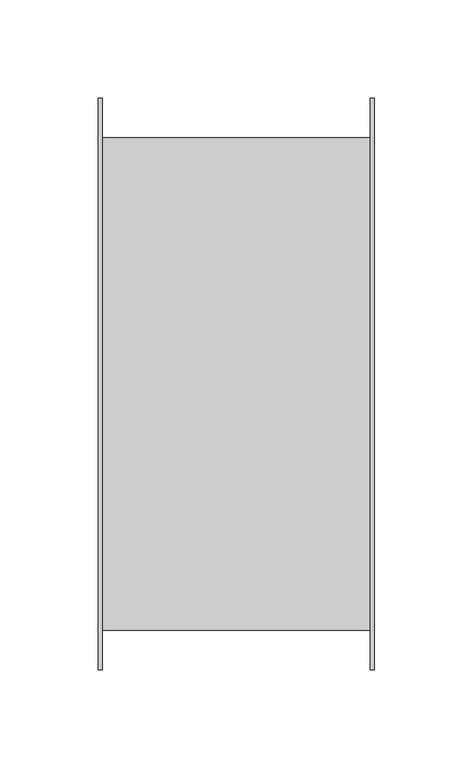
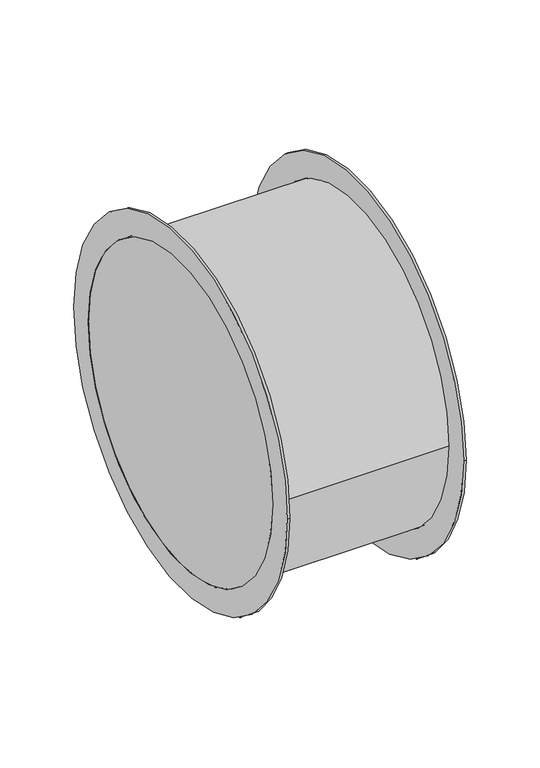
"""IFC4 building model written with IfcOpenShell, lengths in millimetres: proxy geometry, APMV_Установка ПД КЦКП-К100 : APMV_Установка ПД КЦКП-К100."""

from ifc_helpers import new_model, si_unit, point, frame, frame_2d, origin, place, context, project, spatial, circle_curve, trimmed, segment, composite_curve, outline, extrude, source, transform, mapped, element, save


def mechanical_equipment_9442b543(model_context):
    return source(origin(), model_context, "Body", "SweptSolid", [
        extrude(outline(composite_curve([segment(trimmed(circle_curve(frame_2d((-2.3547536, 0.0)), 145.0), [point((-147.3547536, 0.0))], [point((142.6452464, 0.0))], False, "CARTESIAN"), True, "CONTINUOUS"), segment(trimmed(circle_curve(frame_2d((-2.3547536, 0.0)), 145.0), [point((142.6452464, 0.0))], [point((-147.3547536, 0.0))], False, "CARTESIAN"), True, "CONTINUOUS")], self_intersect=False), holes=[composite_curve([segment(trimmed(circle_curve(frame_2d((-2.3547536, 0.0)), 125.0), [point((-127.3547536, 0.0))], [point((122.6452464, 0.0))], True, "CARTESIAN"), True, "CONTINUOUS"), segment(trimmed(circle_curve(frame_2d((-2.3547536, 0.0)), 125.0), [point((122.6452464, 0.0))], [point((-127.3547536, 0.0))], True, "CARTESIAN"), True, "CONTINUOUS")], self_intersect=False)]), frame((-379.568658, 0.0, 0.0), z_axis=(1.0, 0.0, 0.0), x_axis=(0.0, 1.0, 0.0)), (0.0, 0.0, 1.0), 2.0),
        extrude(outline(composite_curve([segment(trimmed(circle_curve(frame_2d((-2.3547536, 0.0)), 145.0), [point((-147.3547536, 0.0))], [point((142.6452464, 0.0))], False, "CARTESIAN"), True, "CONTINUOUS"), segment(trimmed(circle_curve(frame_2d((-2.3547536, 0.0)), 145.0), [point((142.6452464, 0.0))], [point((-147.3547536, 0.0))], False, "CARTESIAN"), True, "CONTINUOUS")], self_intersect=False), holes=[composite_curve([segment(trimmed(circle_curve(frame_2d((-2.3547536, 0.0)), 125.0), [point((-127.3547536, 0.0))], [point((122.6452464, 0.0))], True, "CARTESIAN"), True, "CONTINUOUS"), segment(trimmed(circle_curve(frame_2d((-2.3547536, 0.0)), 125.0), [point((122.6452464, 0.0))], [point((-127.3547536, 0.0))], True, "CARTESIAN"), True, "CONTINUOUS")], self_intersect=False)]), frame((-241.568658, 0.0, 0.0), z_axis=(1.0, 0.0, 0.0), x_axis=(0.0, 1.0, 0.0)), (0.0, 0.0, 1.0), 2.0),
        extrude(outline(composite_curve([segment(trimmed(circle_curve(frame_2d((-2.3547536, 0.0)), 125.0), [point((-127.3547536, 0.0))], [point((122.6452464, 0.0))], False, "CARTESIAN"), True, "CONTINUOUS"), segment(trimmed(circle_curve(frame_2d((-2.3547536, 0.0)), 125.0), [point((122.6452464, 0.0))], [point((-127.3547536, 0.0))], False, "CARTESIAN"), True, "CONTINUOUS")], self_intersect=False)), frame((-379.568658, 0.0, 0.0), z_axis=(1.0, 0.0, 0.0), x_axis=(0.0, 1.0, 0.0)), (0.0, 0.0, 1.0), 140.0),
    ])


if __name__ == "__main__":
    model = new_model("IFC4")
    model_context = context("Model", 3, world=origin())
    ifc_project = project(units=[si_unit("LENGTHUNIT", "METRE", prefix="MILLI")], contexts=[model_context])
    site = spatial("IfcSite", under=ifc_project)
    building = spatial("IfcBuilding", under=site)
    placement = place(None, origin())
    mechanical_equipment_shape = mechanical_equipment_9442b543(model_context)
    element("IfcBuildingElementProxy", 1, Name="APMV_Установка ПД КЦКП-К100 : APMV_Установка ПД КЦКП-К100", ObjectType="APMV_Установка ПД КЦКП-К100 : APMV_Установка ПД КЦКП-К100", at=placement, inside=building, context=model_context, shape_type="MappedRepresentation", body=[
        mapped(mechanical_equipment_shape, transform((0.0, 0.0, 0.0), x_axis=(1.0, 0.0, 0.0), y_axis=(0.0, 1.0, 0.0), z_axis=(0.0, 0.0, 1.0))),
    ])
    save(model, "model.ifc")
